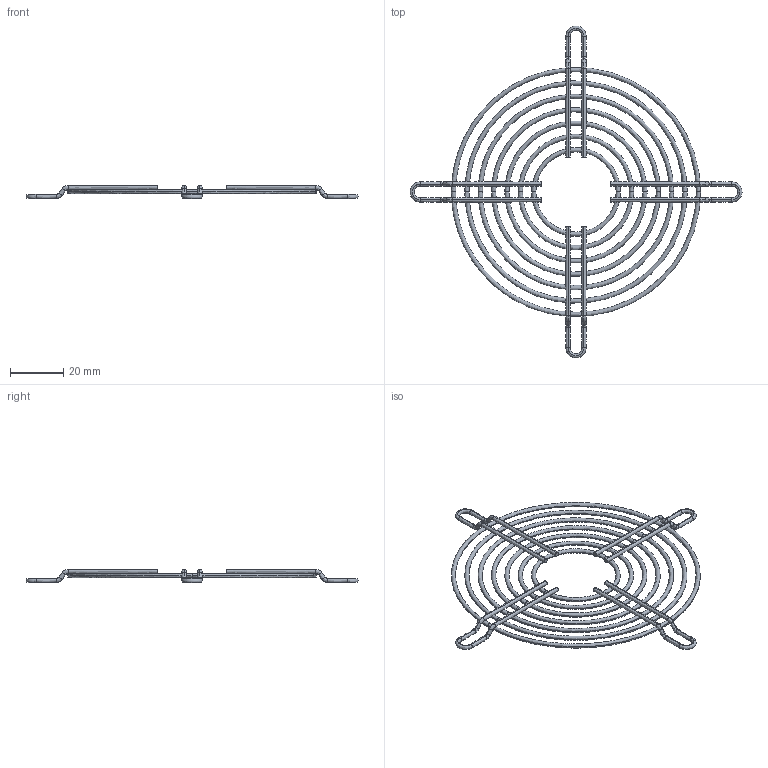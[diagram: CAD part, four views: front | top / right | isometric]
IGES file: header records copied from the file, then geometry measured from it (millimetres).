
Start section:  PTC IGES file: fan92-fg.igs
Global section: file name: fan92-fg.igs; native system: Pro/ENGINEER by Parametric Technology Corporation; preprocessor: 2006420; author: JE18792; organization: Unknown; date: 20101129.152805; units: millimetre
Bounding box: 124.2 x 124.2 x 5 mm (x, y, z)
Volume: 3550.8 mm3; surface area: 8892.8 mm2
Topology: 11 solids, 11 shells, 124 faces, 240 edges, 124 vertices
Faces by surface type: bspline 124
